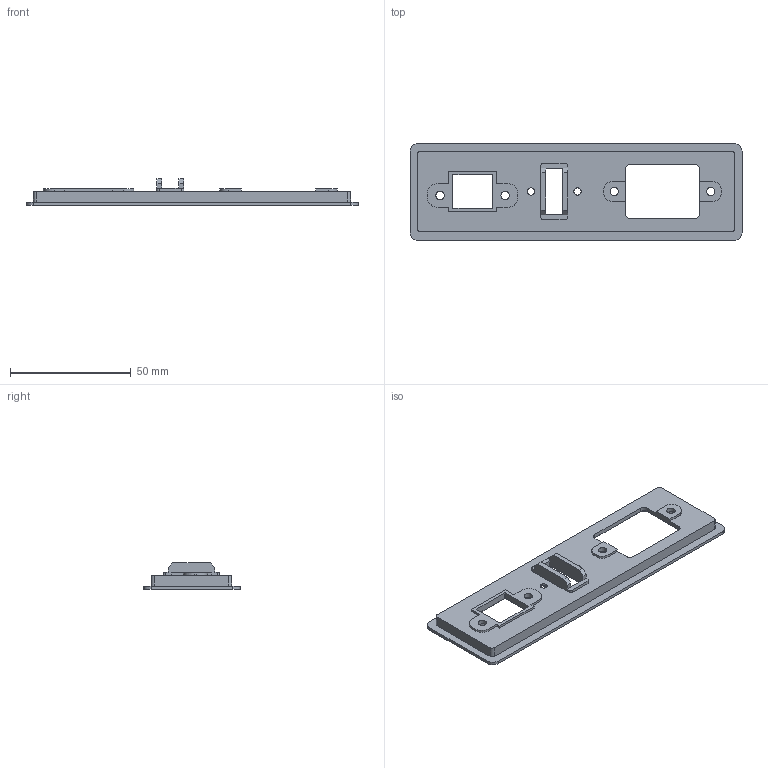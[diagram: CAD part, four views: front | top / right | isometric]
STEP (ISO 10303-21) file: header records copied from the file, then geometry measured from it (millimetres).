
FILE_DESCRIPTION(/* description */ (''),/* implementation_level */ '2;1');
FILE_NAME(/* name */ '/Users/valerian/Desktop/Electrical Plugs.step',/* time_stamp */ '2020-11-22T20:24:08+01:00',/* author */ (''),/* organization */ (''),/* preprocessor_version */ 'ST-DEVELOPER v18.1',/* originating_system */ 'Autodesk Translation Framework v9.3.0.1241',/* authorisation */ '');
FILE_SCHEMA (('AUTOMOTIVE_DESIGN { 1 0 10303 214 3 1 1 }'));
Length unit declared in the file: millimetre
Products named in the file (1): Electrical Plugs
Bounding box: 137.6 x 40 x 11 mm (x, y, z)
Volume: 11307.9 mm3; surface area: 12774.5 mm2
Topology: 1 solids, 1 shells, 142 faces, 374 edges, 238 vertices
Faces by surface type: plane 82, cylinder 42, cone 18
Full cylindrical faces by diameter (mm): 3 x2, 3.5 x4
Entity records: 4417 total; most frequent: DIRECTION 762, CARTESIAN_POINT 755, ORIENTED_EDGE 748, EDGE_CURVE 374, LINE 272, VECTOR 272, AXIS2_PLACEMENT_3D 245, VERTEX_POINT 238
